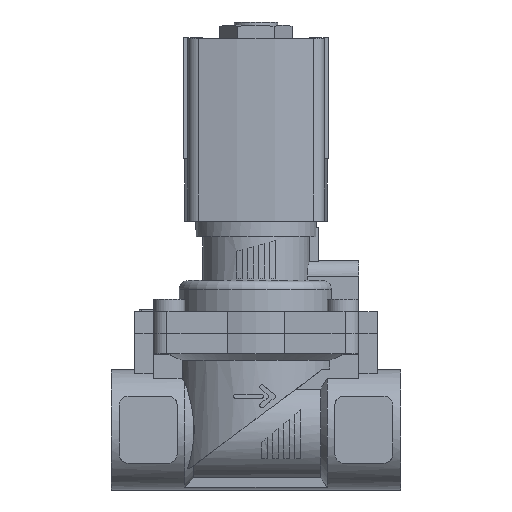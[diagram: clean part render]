
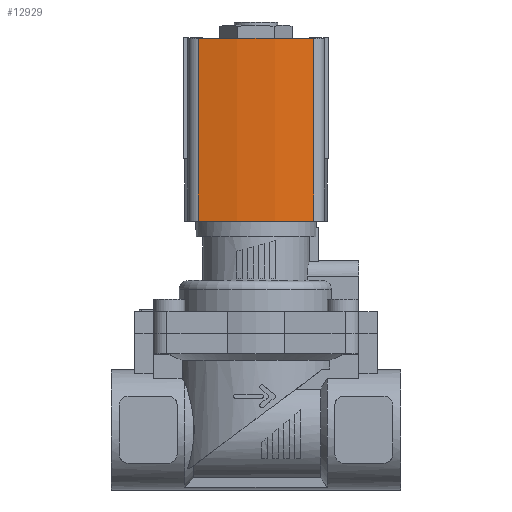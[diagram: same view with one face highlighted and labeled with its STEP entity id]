
A CAD part, top view. The second image highlights one B-rep face of the part: STEP entity #12929.
In plain terms, the highlighted cylindrical face has radius 60 mm (diameter 120 mm), a partial arc.
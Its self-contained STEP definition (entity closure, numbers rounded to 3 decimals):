
#1605=LINE('',#19798,#2697);
#1606=LINE('',#19802,#2698);
#2697=VECTOR('',#16409,1000.);
#2698=VECTOR('',#16414,1000.);
#5108=ORIENTED_EDGE('',*,*,#7148,.T.);
#5109=ORIENTED_EDGE('',*,*,#7149,.F.);
#5110=ORIENTED_EDGE('',*,*,#6434,.F.);
#5111=ORIENTED_EDGE('',*,*,#7147,.T.);
#6434=EDGE_CURVE('',#7707,#7708,#8447,.T.);
#7147=EDGE_CURVE('',#7707,#8213,#1605,.T.);
#7148=EDGE_CURVE('',#8213,#8214,#8541,.T.);
#7149=EDGE_CURVE('',#7708,#8214,#1606,.T.);
#7707=VERTEX_POINT('',#18452);
#7708=VERTEX_POINT('',#18454);
#8213=VERTEX_POINT('',#19797);
#8214=VERTEX_POINT('',#19801);
#8447=CIRCLE('',#13594,60.);
#8541=CIRCLE('',#13815,60.);
#8986=EDGE_LOOP('',(#5108,#5109,#5110,#5111));
#9586=FACE_BOUND('',#8986,.T.);
#9841=CYLINDRICAL_SURFACE('',#13814,60.);
#12929=ADVANCED_FACE('',(#9586),#9841,.T.);
#13594=AXIS2_PLACEMENT_3D('',#18453,#15350,#15351);
#13814=AXIS2_PLACEMENT_3D('',#19799,#16410,#16411);
#13815=AXIS2_PLACEMENT_3D('',#19800,#16412,#16413);
#15350=DIRECTION('',(0.,1.,0.));
#15351=DIRECTION('',(1.,0.,0.));
#16409=DIRECTION('',(0.,-1.,0.));
#16410=DIRECTION('',(0.,-1.,0.));
#16411=DIRECTION('',(0.,0.,-1.));
#16412=DIRECTION('',(0.,1.,0.));
#16413=DIRECTION('',(1.,0.,0.));
#16414=DIRECTION('',(0.,-1.,0.));
#18452=CARTESIAN_POINT('',(19.078,15.,12.986));
#18453=CARTESIAN_POINT('',(-39.5,15.,0.));
#18454=CARTESIAN_POINT('',(19.078,15.,-12.986));
#19797=CARTESIAN_POINT('',(19.078,-26.,12.986));
#19798=CARTESIAN_POINT('',(19.078,15.,12.986));
#19799=CARTESIAN_POINT('',(-39.5,15.,0.));
#19800=CARTESIAN_POINT('',(-39.5,-26.,0.));
#19801=CARTESIAN_POINT('',(19.078,-26.,-12.986));
#19802=CARTESIAN_POINT('',(19.078,15.,-12.986));
